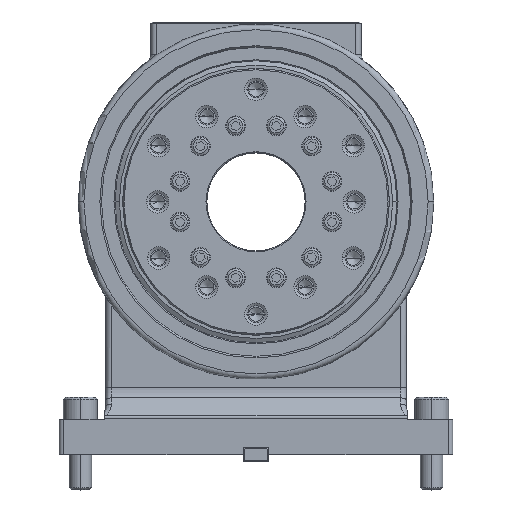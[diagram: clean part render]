
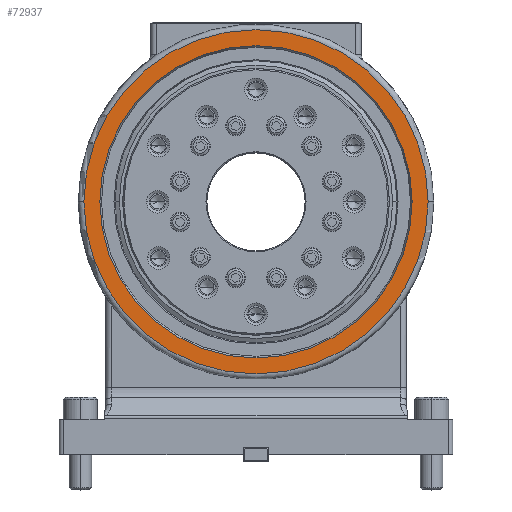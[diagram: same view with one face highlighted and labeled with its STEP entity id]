
A CAD part, top view. The second image highlights one B-rep face of the part: STEP entity #72937.
In plain terms, the highlighted planar face has unit normal (0, 0, 1).
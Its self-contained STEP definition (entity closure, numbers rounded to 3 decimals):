
#632 = CARTESIAN_POINT ( 'NONE',  ( 111.155, 0., -13. ) ) ;
#7579 = ORIENTED_EDGE ( 'NONE', *, *, #68465, .T. ) ;
#9159 = CARTESIAN_POINT ( 'NONE',  ( 0., 0., -13. ) ) ;
#9183 = DIRECTION ( 'NONE',  ( 1., 0., 0. ) ) ;
#15927 = DIRECTION ( 'NONE',  ( 1., 0., 0. ) ) ;
#18468 = AXIS2_PLACEMENT_3D ( 'NONE', #70715, #30374, #77468 ) ;
#19784 = CARTESIAN_POINT ( 'NONE',  ( -122.5, 0., -13. ) ) ;
#20748 = CARTESIAN_POINT ( 'NONE',  ( 122.5, 0., -13. ) ) ;
#21591 = EDGE_CURVE ( 'NONE', #60093, #61572, #72520, .T. ) ;
#23893 = CIRCLE ( 'NONE', #45224, 122.5 ) ;
#30374 = DIRECTION ( 'NONE',  ( 0., 0., 1. ) ) ;
#33882 = DIRECTION ( 'NONE',  ( 0., 0., 1. ) ) ;
#35236 = AXIS2_PLACEMENT_3D ( 'NONE', #9159, #56290, #15927 ) ;
#38438 = DIRECTION ( 'NONE',  ( 0., 0., 1. ) ) ;
#39531 = CARTESIAN_POINT ( 'NONE',  ( -111.155, 0., -13. ) ) ;
#40989 = CIRCLE ( 'NONE', #63882, 111.155 ) ;
#42773 = CARTESIAN_POINT ( 'NONE',  ( 0., 0., -13. ) ) ;
#42960 = ORIENTED_EDGE ( 'NONE', *, *, #21591, .F. ) ;
#45224 = AXIS2_PLACEMENT_3D ( 'NONE', #74132, #33882, #80950 ) ;
#46058 = EDGE_LOOP ( 'NONE', ( #76052, #42960 ) ) ;
#47891 = EDGE_LOOP ( 'NONE', ( #80676, #7579 ) ) ;
#49522 = DIRECTION ( 'NONE',  ( 0., 0., 1. ) ) ;
#54626 = AXIS2_PLACEMENT_3D ( 'NONE', #42773, #49522, #9183 ) ;
#56290 = DIRECTION ( 'NONE',  ( 0., 0., 1. ) ) ;
#59580 = VERTEX_POINT ( 'NONE', #20748 ) ;
#60093 = VERTEX_POINT ( 'NONE', #39531 ) ;
#61572 = VERTEX_POINT ( 'NONE', #632 ) ;
#62580 = EDGE_CURVE ( 'NONE', #61572, #60093, #40989, .T. ) ;
#63882 = AXIS2_PLACEMENT_3D ( 'NONE', #78734, #38438, #85544 ) ;
#68465 = EDGE_CURVE ( 'NONE', #70586, #59580, #23893, .T. ) ;
#70586 = VERTEX_POINT ( 'NONE', #19784 ) ;
#70715 = CARTESIAN_POINT ( 'NONE',  ( 0., 0., -13. ) ) ;
#72520 = CIRCLE ( 'NONE', #35236, 111.155 ) ;
#72937 = ADVANCED_FACE ( 'NONE', ( #77871, #75741 ), #83028, .T. ) ;
#74132 = CARTESIAN_POINT ( 'NONE',  ( 0., 0., -13. ) ) ;
#75741 = FACE_BOUND ( 'NONE', #46058, .T. ) ;
#76052 = ORIENTED_EDGE ( 'NONE', *, *, #62580, .F. ) ;
#77468 = DIRECTION ( 'NONE',  ( 1., 0., 0. ) ) ;
#77871 = FACE_OUTER_BOUND ( 'NONE', #47891, .T. ) ;
#78734 = CARTESIAN_POINT ( 'NONE',  ( 0., 0., -13. ) ) ;
#80117 = CIRCLE ( 'NONE', #18468, 122.5 ) ;
#80676 = ORIENTED_EDGE ( 'NONE', *, *, #86622, .T. ) ;
#80950 = DIRECTION ( 'NONE',  ( 1., 0., 0. ) ) ;
#83028 = PLANE ( 'NONE',  #54626 ) ;
#85544 = DIRECTION ( 'NONE',  ( 1., 0., 0. ) ) ;
#86622 = EDGE_CURVE ( 'NONE', #59580, #70586, #80117, .T. ) ;
